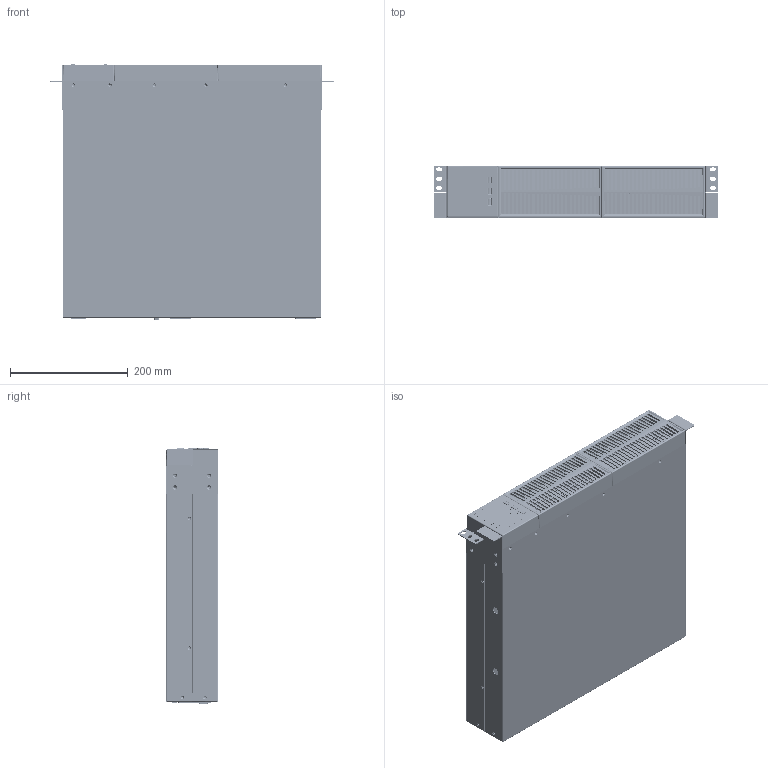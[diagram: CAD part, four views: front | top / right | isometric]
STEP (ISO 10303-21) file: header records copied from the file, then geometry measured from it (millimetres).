
FILE_DESCRIPTION (( 'STEP AP203' ), '1' );
FILE_NAME ('SMALLR2A5I.STEP', '2025-04-28T11:56:09', ( '' ), ( '' ), 'SwSTEP 2.0', 'SolidWorks 2022', '' );
FILE_SCHEMA (( 'CONFIG_CONTROL_DESIGN' ));
Products named in the file (1): SMALLR2A5I
Bounding box: 483 x 88.01 x 434.59 mm (x, y, z)
Surface area: 1779796.6 mm2 (no closed solid volume)
Topology: 0 solids, 133 shells, 7483 faces, 20076 edges, 12861 vertices
Faces by surface type: plane 4866, cylinder 1479, bspline 648, cone 342, torus 122, sphere 26
Entity records: 284988 total; most frequent: CARTESIAN_POINT 105677, ORIENTED_EDGE 39984, DIRECTION 31968, EDGE_CURVE 20072, VERTEX_POINT 12861, LINE 12762, VECTOR 12762, AXIS2_PLACEMENT_3D 9603
